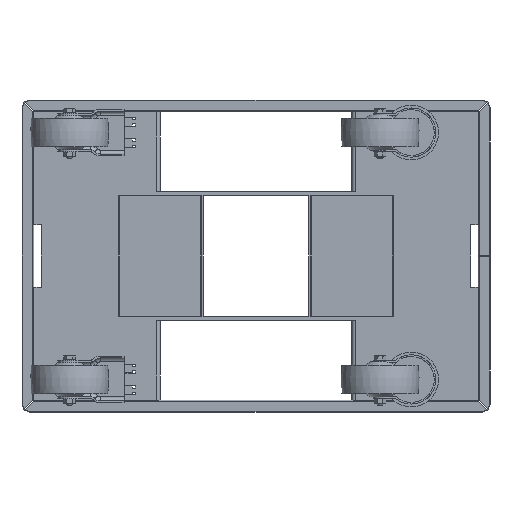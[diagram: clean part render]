
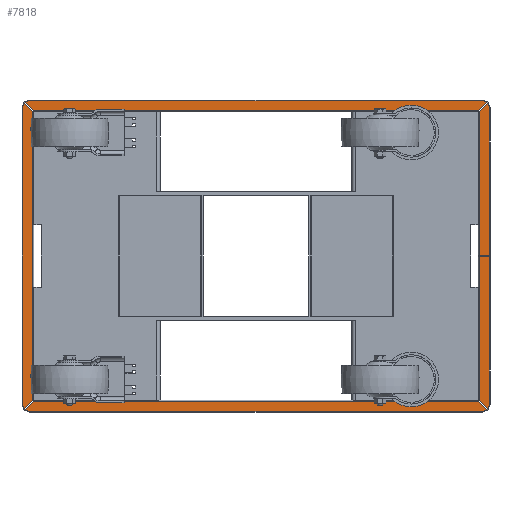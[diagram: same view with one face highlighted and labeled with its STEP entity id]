
A CAD part, front view. The second image highlights one B-rep face of the part: STEP entity #7818.
In plain terms, the highlighted planar face has unit normal (0, -1, 0) as drawn and (0, 1, 0) by its records, which use the part's own axes.
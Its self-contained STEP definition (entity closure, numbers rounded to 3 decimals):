
#343=CIRCLE('',#9486,9.);
#344=CIRCLE('',#9487,9.);
#345=CIRCLE('',#9488,9.);
#346=CIRCLE('',#9489,9.);
#1183=ORIENTED_EDGE('',*,*,#3340,.T.);
#1184=ORIENTED_EDGE('',*,*,#3341,.T.);
#1185=ORIENTED_EDGE('',*,*,#3320,.F.);
#1186=ORIENTED_EDGE('',*,*,#3324,.F.);
#1187=ORIENTED_EDGE('',*,*,#3329,.F.);
#1188=ORIENTED_EDGE('',*,*,#3342,.T.);
#1189=ORIENTED_EDGE('',*,*,#3334,.F.);
#1190=ORIENTED_EDGE('',*,*,#3337,.F.);
#1191=ORIENTED_EDGE('',*,*,#3289,.F.);
#1192=ORIENTED_EDGE('',*,*,#3343,.T.);
#1193=ORIENTED_EDGE('',*,*,#3293,.F.);
#1194=ORIENTED_EDGE('',*,*,#3300,.F.);
#1195=ORIENTED_EDGE('',*,*,#3303,.F.);
#1196=ORIENTED_EDGE('',*,*,#3344,.T.);
#1197=ORIENTED_EDGE('',*,*,#3306,.F.);
#1198=ORIENTED_EDGE('',*,*,#3314,.F.);
#1199=ORIENTED_EDGE('',*,*,#3316,.F.);
#1200=ORIENTED_EDGE('',*,*,#2904,.T.);
#1201=ORIENTED_EDGE('',*,*,#3345,.F.);
#1202=ORIENTED_EDGE('',*,*,#2894,.T.);
#1203=ORIENTED_EDGE('',*,*,#3346,.T.);
#1204=ORIENTED_EDGE('',*,*,#3347,.T.);
#1205=ORIENTED_EDGE('',*,*,#3348,.T.);
#1206=ORIENTED_EDGE('',*,*,#3349,.T.);
#1207=ORIENTED_EDGE('',*,*,#3350,.T.);
#1208=ORIENTED_EDGE('',*,*,#3351,.T.);
#1209=ORIENTED_EDGE('',*,*,#3352,.T.);
#1210=ORIENTED_EDGE('',*,*,#3353,.T.);
#2894=EDGE_CURVE('',#4008,#4009,#4774,.T.);
#2904=EDGE_CURVE('',#4015,#4014,#4777,.F.);
#3289=EDGE_CURVE('',#4358,#4359,#5122,.T.);
#3293=EDGE_CURVE('',#4362,#4363,#5125,.T.);
#3300=EDGE_CURVE('',#4367,#4362,#5130,.T.);
#3303=EDGE_CURVE('',#4369,#4367,#5132,.T.);
#3306=EDGE_CURVE('',#4371,#4372,#5134,.T.);
#3314=EDGE_CURVE('',#4377,#4371,#5140,.T.);
#3316=EDGE_CURVE('',#4015,#4377,#5142,.T.);
#3320=EDGE_CURVE('',#4380,#4381,#5145,.T.);
#3324=EDGE_CURVE('',#4383,#4380,#5148,.T.);
#3329=EDGE_CURVE('',#4386,#4383,#5151,.T.);
#3334=EDGE_CURVE('',#4390,#4391,#5155,.T.);
#3337=EDGE_CURVE('',#4359,#4390,#5157,.T.);
#3340=EDGE_CURVE('',#4392,#4393,#5160,.T.);
#3341=EDGE_CURVE('',#4393,#4381,#5161,.F.);
#3342=EDGE_CURVE('',#4386,#4391,#5162,.F.);
#3343=EDGE_CURVE('',#4358,#4363,#5163,.F.);
#3344=EDGE_CURVE('',#4369,#4372,#5164,.F.);
#3345=EDGE_CURVE('',#4008,#4014,#5165,.T.);
#3346=EDGE_CURVE('',#4009,#4394,#343,.T.);
#3347=EDGE_CURVE('',#4394,#4395,#5166,.T.);
#3348=EDGE_CURVE('',#4395,#4396,#344,.T.);
#3349=EDGE_CURVE('',#4396,#4397,#5167,.T.);
#3350=EDGE_CURVE('',#4397,#4398,#345,.T.);
#3351=EDGE_CURVE('',#4398,#4399,#5168,.T.);
#3352=EDGE_CURVE('',#4399,#4400,#346,.T.);
#3353=EDGE_CURVE('',#4400,#4392,#5169,.T.);
#4008=VERTEX_POINT('',#12483);
#4009=VERTEX_POINT('',#12484);
#4014=VERTEX_POINT('',#12501);
#4015=VERTEX_POINT('',#12503);
#4358=VERTEX_POINT('',#13265);
#4359=VERTEX_POINT('',#13267);
#4362=VERTEX_POINT('',#13275);
#4363=VERTEX_POINT('',#13276);
#4367=VERTEX_POINT('',#13287);
#4369=VERTEX_POINT('',#13293);
#4371=VERTEX_POINT('',#13300);
#4372=VERTEX_POINT('',#13301);
#4377=VERTEX_POINT('',#13314);
#4380=VERTEX_POINT('',#13325);
#4381=VERTEX_POINT('',#13327);
#4383=VERTEX_POINT('',#13333);
#4386=VERTEX_POINT('',#13342);
#4390=VERTEX_POINT('',#13352);
#4391=VERTEX_POINT('',#13354);
#4392=VERTEX_POINT('',#13364);
#4393=VERTEX_POINT('',#13365);
#4394=VERTEX_POINT('',#13372);
#4395=VERTEX_POINT('',#13374);
#4396=VERTEX_POINT('',#13376);
#4397=VERTEX_POINT('',#13378);
#4398=VERTEX_POINT('',#13380);
#4399=VERTEX_POINT('',#13382);
#4400=VERTEX_POINT('',#13384);
#4774=LINE('',#12482,#5504);
#4777=LINE('',#12502,#5507);
#5122=LINE('',#13266,#5852);
#5125=LINE('',#13274,#5855);
#5130=LINE('',#13288,#5860);
#5132=LINE('',#13294,#5862);
#5134=LINE('',#13299,#5864);
#5140=LINE('',#13315,#5870);
#5142=LINE('',#13318,#5872);
#5145=LINE('',#13326,#5875);
#5148=LINE('',#13334,#5878);
#5151=LINE('',#13343,#5881);
#5155=LINE('',#13353,#5885);
#5157=LINE('',#13358,#5887);
#5160=LINE('',#13363,#5890);
#5161=LINE('',#13366,#5891);
#5162=LINE('',#13367,#5892);
#5163=LINE('',#13368,#5893);
#5164=LINE('',#13369,#5894);
#5165=LINE('',#13370,#5895);
#5166=LINE('',#13373,#5896);
#5167=LINE('',#13377,#5897);
#5168=LINE('',#13381,#5898);
#5169=LINE('',#13385,#5899);
#5504=VECTOR('',#10176,1000.);
#5507=VECTOR('',#10199,1000.);
#5852=VECTOR('',#10694,1000.);
#5855=VECTOR('',#10701,1000.);
#5860=VECTOR('',#10712,1000.);
#5862=VECTOR('',#10718,1000.);
#5864=VECTOR('',#10724,1000.);
#5870=VECTOR('',#10736,1000.);
#5872=VECTOR('',#10740,1000.);
#5875=VECTOR('',#10747,1000.);
#5878=VECTOR('',#10754,1000.);
#5881=VECTOR('',#10763,1000.);
#5885=VECTOR('',#10771,1000.);
#5887=VECTOR('',#10777,1000.);
#5890=VECTOR('',#10784,1000.);
#5891=VECTOR('',#10785,1000.);
#5892=VECTOR('',#10786,1000.);
#5893=VECTOR('',#10787,1000.);
#5894=VECTOR('',#10788,1000.);
#5895=VECTOR('',#10789,1000.);
#5896=VECTOR('',#10792,1000.);
#5897=VECTOR('',#10795,1000.);
#5898=VECTOR('',#10798,1000.);
#5899=VECTOR('',#10801,1000.);
#6304=EDGE_LOOP('',(#1183,#1184,#1185,#1186,#1187,#1188,#1189,#1190,#1191,
#1192,#1193,#1194,#1195,#1196,#1197,#1198,#1199,#1200,#1201,#1202,#1203,
#1204,#1205,#1206,#1207,#1208,#1209,#1210));
#6934=FACE_BOUND('',#6304,.T.);
#7517=PLANE('',#9485);
#7818=ADVANCED_FACE('',(#6934),#7517,.T.);
#9485=AXIS2_PLACEMENT_3D('',#13362,#10782,#10783);
#9486=AXIS2_PLACEMENT_3D('',#13371,#10790,#10791);
#9487=AXIS2_PLACEMENT_3D('',#13375,#10793,#10794);
#9488=AXIS2_PLACEMENT_3D('',#13379,#10796,#10797);
#9489=AXIS2_PLACEMENT_3D('',#13383,#10799,#10800);
#10176=DIRECTION('',(0.,0.,-1.));
#10199=DIRECTION('',(0.,0.,-1.));
#10694=DIRECTION('',(-0.707,0.,0.707));
#10701=DIRECTION('',(0.707,0.,0.707));
#10712=DIRECTION('',(-0.707,0.,0.707));
#10718=DIRECTION('',(-0.707,0.,-0.707));
#10724=DIRECTION('',(-0.707,0.,0.707));
#10736=DIRECTION('',(-0.707,0.,-0.707));
#10740=DIRECTION('',(0.707,0.,-0.707));
#10747=DIRECTION('',(-0.707,0.,-0.707));
#10754=DIRECTION('',(0.707,0.,-0.707));
#10763=DIRECTION('',(0.707,0.,0.707));
#10771=DIRECTION('',(0.707,0.,-0.707));
#10777=DIRECTION('',(0.707,0.,0.707));
#10782=DIRECTION('',(0.,1.,0.));
#10783=DIRECTION('',(0.,0.,1.));
#10784=DIRECTION('',(-1.,0.,0.));
#10785=DIRECTION('',(0.,0.,-1.));
#10786=DIRECTION('',(1.,0.,0.));
#10787=DIRECTION('',(0.,0.,1.));
#10788=DIRECTION('',(-1.,0.,0.));
#10789=DIRECTION('',(-1.,0.,0.));
#10790=DIRECTION('',(0.,1.,0.));
#10791=DIRECTION('',(0.,0.,1.));
#10792=DIRECTION('',(-1.,0.,0.));
#10793=DIRECTION('',(0.,1.,0.));
#10794=DIRECTION('',(0.,0.,1.));
#10795=DIRECTION('',(0.,0.,1.));
#10796=DIRECTION('',(0.,1.,0.));
#10797=DIRECTION('',(0.,0.,1.));
#10798=DIRECTION('',(1.,0.,0.));
#10799=DIRECTION('',(0.,1.,0.));
#10800=DIRECTION('',(0.,0.,1.));
#10801=DIRECTION('',(0.,0.,-1.));
#12482=CARTESIAN_POINT('',(299.,30.,-190.));
#12483=CARTESIAN_POINT('',(299.,30.,-0.4));
#12484=CARTESIAN_POINT('',(299.,30.,-190.));
#12501=CARTESIAN_POINT('',(286.,30.,-0.4));
#12502=CARTESIAN_POINT('',(286.,30.,-190.));
#12503=CARTESIAN_POINT('',(286.,30.,-185.576));
#13265=CARTESIAN_POINT('',(-286.,30.,185.576));
#13266=CARTESIAN_POINT('',(-285.,30.,184.576));
#13267=CARTESIAN_POINT('',(-296.314,30.,195.889));
#13274=CARTESIAN_POINT('',(-296.314,30.,-195.889));
#13275=CARTESIAN_POINT('',(-296.314,30.,-195.889));
#13276=CARTESIAN_POINT('',(-286.,30.,-185.576));
#13287=CARTESIAN_POINT('',(-295.889,30.,-196.314));
#13288=CARTESIAN_POINT('',(-295.889,30.,-196.314));
#13293=CARTESIAN_POINT('',(-285.576,30.,-186.));
#13294=CARTESIAN_POINT('',(-284.576,30.,-185.));
#13299=CARTESIAN_POINT('',(295.889,30.,-196.314));
#13300=CARTESIAN_POINT('',(295.889,30.,-196.314));
#13301=CARTESIAN_POINT('',(285.576,30.,-186.));
#13314=CARTESIAN_POINT('',(296.314,30.,-195.889));
#13315=CARTESIAN_POINT('',(296.314,30.,-195.889));
#13318=CARTESIAN_POINT('',(285.,30.,-184.576));
#13325=CARTESIAN_POINT('',(296.314,30.,195.889));
#13326=CARTESIAN_POINT('',(296.314,30.,195.889));
#13327=CARTESIAN_POINT('',(286.,30.,185.576));
#13333=CARTESIAN_POINT('',(295.889,30.,196.314));
#13334=CARTESIAN_POINT('',(295.889,30.,196.314));
#13342=CARTESIAN_POINT('',(285.576,30.,186.));
#13343=CARTESIAN_POINT('',(284.576,30.,185.));
#13352=CARTESIAN_POINT('',(-295.889,30.,196.314));
#13353=CARTESIAN_POINT('',(-295.889,30.,196.314));
#13354=CARTESIAN_POINT('',(-285.576,30.,186.));
#13358=CARTESIAN_POINT('',(-296.314,30.,195.889));
#13362=CARTESIAN_POINT('',(-290.,30.,-190.));
#13363=CARTESIAN_POINT('',(300.,30.,0.4));
#13364=CARTESIAN_POINT('',(299.,30.,0.4));
#13365=CARTESIAN_POINT('',(286.,30.,0.4));
#13366=CARTESIAN_POINT('',(286.,30.,-190.));
#13367=CARTESIAN_POINT('',(-290.,30.,186.));
#13368=CARTESIAN_POINT('',(-286.,30.,-190.));
#13369=CARTESIAN_POINT('',(-290.,30.,-186.));
#13370=CARTESIAN_POINT('',(300.,30.,-0.4));
#13371=CARTESIAN_POINT('',(290.,30.,-190.));
#13372=CARTESIAN_POINT('',(290.,30.,-199.));
#13373=CARTESIAN_POINT('',(-290.,30.,-199.));
#13374=CARTESIAN_POINT('',(-290.,30.,-199.));
#13375=CARTESIAN_POINT('',(-290.,30.,-190.));
#13376=CARTESIAN_POINT('',(-299.,30.,-190.));
#13377=CARTESIAN_POINT('',(-299.,30.,190.));
#13378=CARTESIAN_POINT('',(-299.,30.,190.));
#13379=CARTESIAN_POINT('',(-290.,30.,190.));
#13380=CARTESIAN_POINT('',(-290.,30.,199.));
#13381=CARTESIAN_POINT('',(290.,30.,199.));
#13382=CARTESIAN_POINT('',(290.,30.,199.));
#13383=CARTESIAN_POINT('',(290.,30.,190.));
#13384=CARTESIAN_POINT('',(299.,30.,190.));
#13385=CARTESIAN_POINT('',(299.,30.,-190.));
